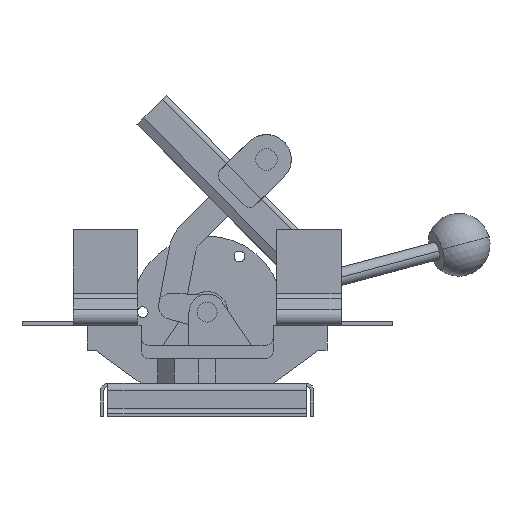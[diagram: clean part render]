
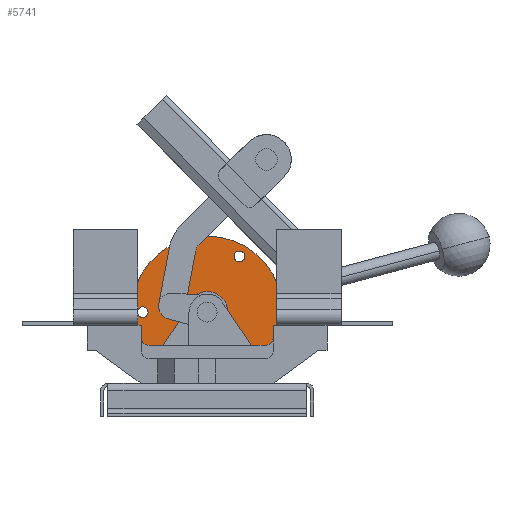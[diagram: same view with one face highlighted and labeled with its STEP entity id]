
A CAD part, left-side view. The second image highlights one B-rep face of the part: STEP entity #5741.
In plain terms, the highlighted planar face has unit normal (-1, 0, 0).
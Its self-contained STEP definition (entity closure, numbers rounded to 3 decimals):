
#220 = ORIENTED_EDGE ( 'NONE', *, *, #10374, .F. ) ;
#268 = AXIS2_PLACEMENT_3D ( 'NONE', #3488, #23099, #15321 ) ;
#585 = EDGE_CURVE ( 'NONE', #4735, #21055, #2628, .T. ) ;
#678 = DIRECTION ( 'NONE',  ( -1., 0., 0. ) ) ;
#1365 = AXIS2_PLACEMENT_3D ( 'NONE', #12007, #6092, #24040 ) ;
#1643 = DIRECTION ( 'NONE',  ( 1., 0., 0. ) ) ;
#1720 = EDGE_CURVE ( 'NONE', #11053, #7795, #17621, .T. ) ;
#2357 = AXIS2_PLACEMENT_3D ( 'NONE', #23083, #19059, #3473 ) ;
#2628 = CIRCLE ( 'NONE', #14466, 12.5 ) ;
#3406 = AXIS2_PLACEMENT_3D ( 'NONE', #17760, #10170, #4008 ) ;
#3473 = DIRECTION ( 'NONE',  ( 0., 0., -1. ) ) ;
#3488 = CARTESIAN_POINT ( 'NONE',  ( 205., 39., 0. ) ) ;
#3530 = CIRCLE ( 'NONE', #22742, 3.25 ) ;
#3695 = VERTEX_POINT ( 'NONE', #6875 ) ;
#3731 = AXIS2_PLACEMENT_3D ( 'NONE', #22756, #11124, #24913 ) ;
#4008 = DIRECTION ( 'NONE',  ( 0., 0., -1. ) ) ;
#4735 = VERTEX_POINT ( 'NONE', #8303 ) ;
#4737 = CARTESIAN_POINT ( 'NONE',  ( 205., -19.5, -33.775 ) ) ;
#5433 = CARTESIAN_POINT ( 'NONE',  ( 205., -19.5, -37.025 ) ) ;
#5741 = ADVANCED_FACE ( 'NONE', ( #19904, #11854, #12174, #19272, #7807 ), #8252, .F. ) ;
#5881 = DIRECTION ( 'NONE',  ( -1., 0., 0. ) ) ;
#6092 = DIRECTION ( 'NONE',  ( 1., 0., 0. ) ) ;
#6631 = DIRECTION ( 'NONE',  ( 0., 0., -1. ) ) ;
#6875 = CARTESIAN_POINT ( 'NONE',  ( 205., -19.5, 37.025 ) ) ;
#7086 = ORIENTED_EDGE ( 'NONE', *, *, #17925, .F. ) ;
#7299 = EDGE_LOOP ( 'NONE', ( #7086, #24786 ) ) ;
#7501 = CARTESIAN_POINT ( 'NONE',  ( 205., 0., 0. ) ) ;
#7603 = ORIENTED_EDGE ( 'NONE', *, *, #15498, .F. ) ;
#7776 = CARTESIAN_POINT ( 'NONE',  ( 205., 39., 0. ) ) ;
#7788 = DIRECTION ( 'NONE',  ( 0., 0., -1. ) ) ;
#7795 = VERTEX_POINT ( 'NONE', #23110 ) ;
#7807 = FACE_OUTER_BOUND ( 'NONE', #8424, .T. ) ;
#7997 = DIRECTION ( 'NONE',  ( 1., 0., 0. ) ) ;
#8252 = PLANE ( 'NONE',  #1365 ) ;
#8303 = CARTESIAN_POINT ( 'NONE',  ( 205., 0., -12.5 ) ) ;
#8381 = EDGE_LOOP ( 'NONE', ( #10114, #7603 ) ) ;
#8405 = CARTESIAN_POINT ( 'NONE',  ( 205., 39., -3.25 ) ) ;
#8424 = EDGE_LOOP ( 'NONE', ( #16131, #19149 ) ) ;
#9182 = DIRECTION ( 'NONE',  ( 0., 0., -1. ) ) ;
#9235 = VERTEX_POINT ( 'NONE', #5433 ) ;
#10114 = ORIENTED_EDGE ( 'NONE', *, *, #22936, .F. ) ;
#10127 = DIRECTION ( 'NONE',  ( 0., 0., -1. ) ) ;
#10170 = DIRECTION ( 'NONE',  ( 1., 0., 0. ) ) ;
#10374 = EDGE_CURVE ( 'NONE', #25346, #9235, #18325, .T. ) ;
#10786 = CARTESIAN_POINT ( 'NONE',  ( 205., 0., -46. ) ) ;
#11053 = VERTEX_POINT ( 'NONE', #10786 ) ;
#11124 = DIRECTION ( 'NONE',  ( 1., 0., 0. ) ) ;
#11249 = EDGE_CURVE ( 'NONE', #21258, #15359, #16308, .T. ) ;
#11854 = FACE_BOUND ( 'NONE', #7299, .T. ) ;
#11885 = EDGE_CURVE ( 'NONE', #7795, #11053, #20952, .T. ) ;
#11982 = CARTESIAN_POINT ( 'NONE',  ( 205., 0., 12.5 ) ) ;
#12007 = CARTESIAN_POINT ( 'NONE',  ( 205., 0., 0. ) ) ;
#12112 = ORIENTED_EDGE ( 'NONE', *, *, #24415, .T. ) ;
#12174 = FACE_BOUND ( 'NONE', #19553, .T. ) ;
#13022 = CARTESIAN_POINT ( 'NONE',  ( 205., -19.5, -33.775 ) ) ;
#14396 = EDGE_CURVE ( 'NONE', #9235, #25346, #22299, .T. ) ;
#14466 = AXIS2_PLACEMENT_3D ( 'NONE', #7501, #1643, #15546 ) ;
#14563 = EDGE_LOOP ( 'NONE', ( #12112, #16273 ) ) ;
#14736 = CARTESIAN_POINT ( 'NONE',  ( 205., 39., 3.25 ) ) ;
#15321 = DIRECTION ( 'NONE',  ( 0., 0., -1. ) ) ;
#15359 = VERTEX_POINT ( 'NONE', #8405 ) ;
#15498 = EDGE_CURVE ( 'NONE', #3695, #19935, #25255, .T. ) ;
#15546 = DIRECTION ( 'NONE',  ( 0., 0., -1. ) ) ;
#15949 = ORIENTED_EDGE ( 'NONE', *, *, #14396, .F. ) ;
#16131 = ORIENTED_EDGE ( 'NONE', *, *, #1720, .F. ) ;
#16273 = ORIENTED_EDGE ( 'NONE', *, *, #585, .T. ) ;
#16308 = CIRCLE ( 'NONE', #19943, 3.25 ) ;
#16617 = AXIS2_PLACEMENT_3D ( 'NONE', #19877, #7997, #25717 ) ;
#16764 = CARTESIAN_POINT ( 'NONE',  ( 205., -19.5, -30.525 ) ) ;
#17621 = CIRCLE ( 'NONE', #3406, 46. ) ;
#17760 = CARTESIAN_POINT ( 'NONE',  ( 205., 0., 0. ) ) ;
#17925 = EDGE_CURVE ( 'NONE', #15359, #21258, #21680, .T. ) ;
#18325 = CIRCLE ( 'NONE', #25257, 3.25 ) ;
#19059 = DIRECTION ( 'NONE',  ( -1., 0., 0. ) ) ;
#19149 = ORIENTED_EDGE ( 'NONE', *, *, #11885, .F. ) ;
#19272 = FACE_BOUND ( 'NONE', #14563, .T. ) ;
#19553 = EDGE_LOOP ( 'NONE', ( #15949, #220 ) ) ;
#19736 = CARTESIAN_POINT ( 'NONE',  ( 205., -19.5, 33.775 ) ) ;
#19877 = CARTESIAN_POINT ( 'NONE',  ( 205., 0., 0. ) ) ;
#19904 = FACE_BOUND ( 'NONE', #8381, .T. ) ;
#19935 = VERTEX_POINT ( 'NONE', #22025 ) ;
#19943 = AXIS2_PLACEMENT_3D ( 'NONE', #7776, #5881, #10127 ) ;
#20224 = AXIS2_PLACEMENT_3D ( 'NONE', #4737, #678, #6631 ) ;
#20684 = CIRCLE ( 'NONE', #3731, 12.5 ) ;
#20952 = CIRCLE ( 'NONE', #16617, 46. ) ;
#21055 = VERTEX_POINT ( 'NONE', #11982 ) ;
#21258 = VERTEX_POINT ( 'NONE', #14736 ) ;
#21680 = CIRCLE ( 'NONE', #268, 3.25 ) ;
#22025 = CARTESIAN_POINT ( 'NONE',  ( 205., -19.5, 30.525 ) ) ;
#22299 = CIRCLE ( 'NONE', #20224, 3.25 ) ;
#22742 = AXIS2_PLACEMENT_3D ( 'NONE', #19736, #23599, #7788 ) ;
#22756 = CARTESIAN_POINT ( 'NONE',  ( 205., 0., 0. ) ) ;
#22936 = EDGE_CURVE ( 'NONE', #19935, #3695, #3530, .T. ) ;
#23083 = CARTESIAN_POINT ( 'NONE',  ( 205., -19.5, 33.775 ) ) ;
#23099 = DIRECTION ( 'NONE',  ( -1., 0., 0. ) ) ;
#23110 = CARTESIAN_POINT ( 'NONE',  ( 205., 0., 46. ) ) ;
#23266 = DIRECTION ( 'NONE',  ( -1., 0., 0. ) ) ;
#23599 = DIRECTION ( 'NONE',  ( -1., 0., 0. ) ) ;
#24040 = DIRECTION ( 'NONE',  ( 0., 0., -1. ) ) ;
#24415 = EDGE_CURVE ( 'NONE', #21055, #4735, #20684, .T. ) ;
#24786 = ORIENTED_EDGE ( 'NONE', *, *, #11249, .F. ) ;
#24913 = DIRECTION ( 'NONE',  ( 0., 0., -1. ) ) ;
#25255 = CIRCLE ( 'NONE', #2357, 3.25 ) ;
#25257 = AXIS2_PLACEMENT_3D ( 'NONE', #13022, #23266, #9182 ) ;
#25346 = VERTEX_POINT ( 'NONE', #16764 ) ;
#25717 = DIRECTION ( 'NONE',  ( 0., 0., -1. ) ) ;
